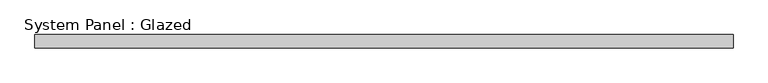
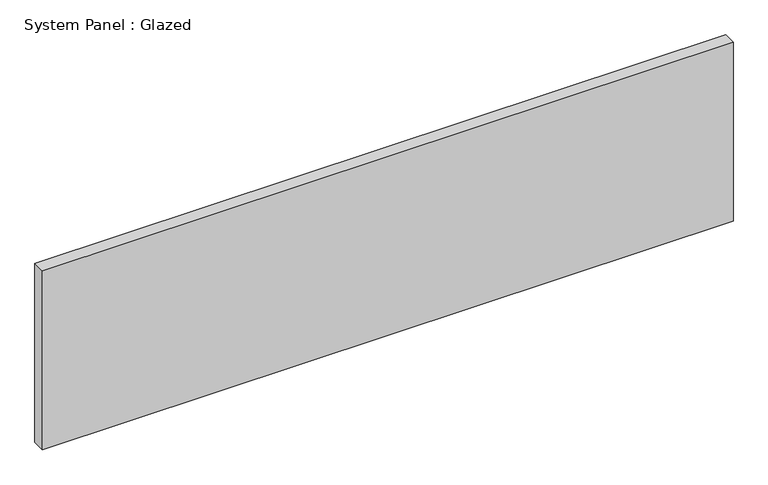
"""IFC4 building model written with IfcOpenShell, lengths in millimetres: plate geometry, System Panel : Glazed."""

from ifc_helpers import new_model, si_unit, origin, origin_with_axes, place, context, project, spatial, polyline, outline, extrude, source, transform, mapped, element, save


def system_panel_glazed_55dc300c(model_context):
    return source(origin(), model_context, "Body", "SweptSolid", [
        extrude(outline(polyline([(672.0416667, 19.05), (-672.0416667, 19.05), (-672.0416667, 44.45), (672.0416667, 44.45), (672.0416667, 19.05)])), origin_with_axes(), (0.0, 0.0, 1.0), 368.3),
    ])


if __name__ == "__main__":
    model = new_model("IFC4")
    model_context = context("Model", 3, world=origin())
    ifc_project = project(units=[si_unit("LENGTHUNIT", "METRE", prefix="MILLI")], contexts=[model_context])
    site = spatial("IfcSite", under=ifc_project)
    building = spatial("IfcBuilding", under=site)
    placement = place(None, origin())
    system_panel_glazed_shape = system_panel_glazed_55dc300c(model_context)
    element("IfcPlate", 1, ObjectType="System Panel : Glazed", at=placement, inside=building, context=model_context, shape_type="MappedRepresentation", body=[
        mapped(system_panel_glazed_shape, transform((0.0, 0.0, 0.0), x_axis=(1.0, 0.0, 0.0), y_axis=(0.0, 1.0, 0.0), z_axis=(0.0, 0.0, 1.0))),
    ])
    save(model, "model.ifc")
